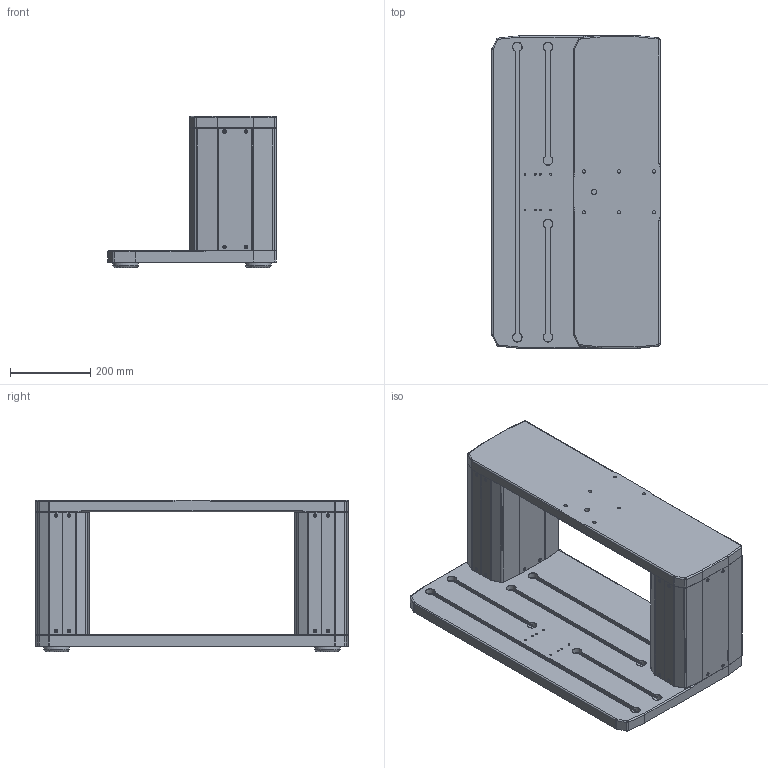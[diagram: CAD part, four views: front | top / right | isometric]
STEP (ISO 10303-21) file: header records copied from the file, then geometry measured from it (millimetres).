
FILE_DESCRIPTION(/* description */ (''),/* implementation_level */ '2;1');
FILE_NAME(/* name */ 'C:\Users\ntakaki\Desktop\New folder (2)\ESM303-002-1\ESM303-002-2.stp',/* time_stamp */ '2021-11-08T14:46:22-05:00',/* author */ ('ntakaki'),/* organization */ (''),/* preprocessor_version */ 'ST-DEVELOPER v18.1',/* originating_system */ 'AutoCAD Mechanical',/* authorisation */ '');
FILE_SCHEMA (('AUTOMOTIVE_DESIGN { 1 0 10303 214 3 1 1 }'));
Products named in the file (1): Product
Bounding box: 418.59 x 776.73 x 375.67 mm (x, y, z)
Volume: 30324458.2 mm3; surface area: 2120833.7 mm2
Topology: 1 solids, 5 shells, 1762 faces, 3986 edges, 2415 vertices
Faces by surface type: plane 759, cone 398, cylinder 361, bspline 224, torus 20
Full cylindrical faces by diameter (mm): 4.826 x8, 7.798 x32, 7.938 x16, 8.128 x4, 8.255 x18, 9.652 x4, 11.906 x16, 12.7 x1, 13.462 x14, 15.081 x4, 15.875 x4, 22.352 x4, 28.702 x4, 63.5 x4, 67.31 x4
Entity records: 53380 total; most frequent: CARTESIAN_POINT 15312, ORIENTED_EDGE 7972, DIRECTION 7545, EDGE_CURVE 3986, AXIS2_PLACEMENT_3D 2676, VERTEX_POINT 2415, LINE 2193, VECTOR 2193
